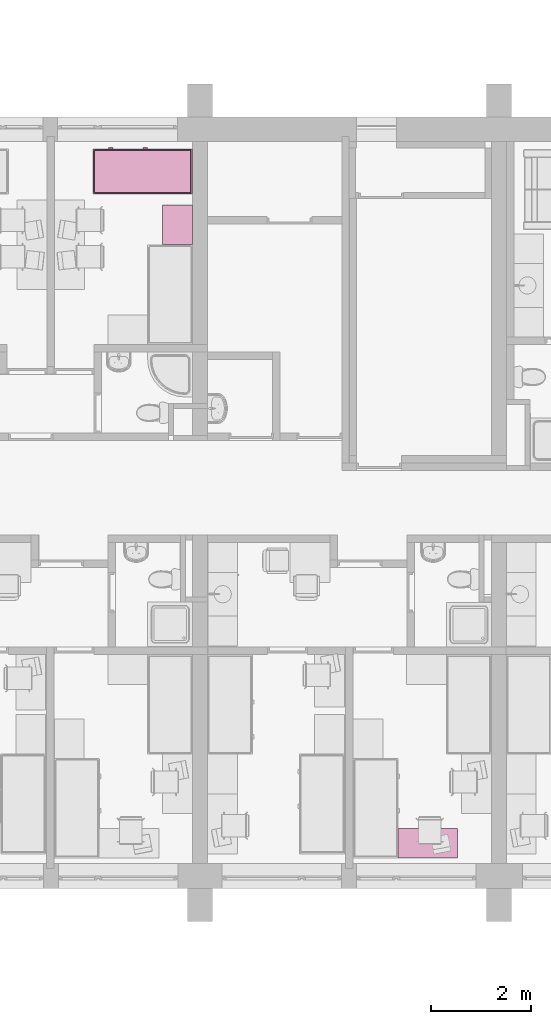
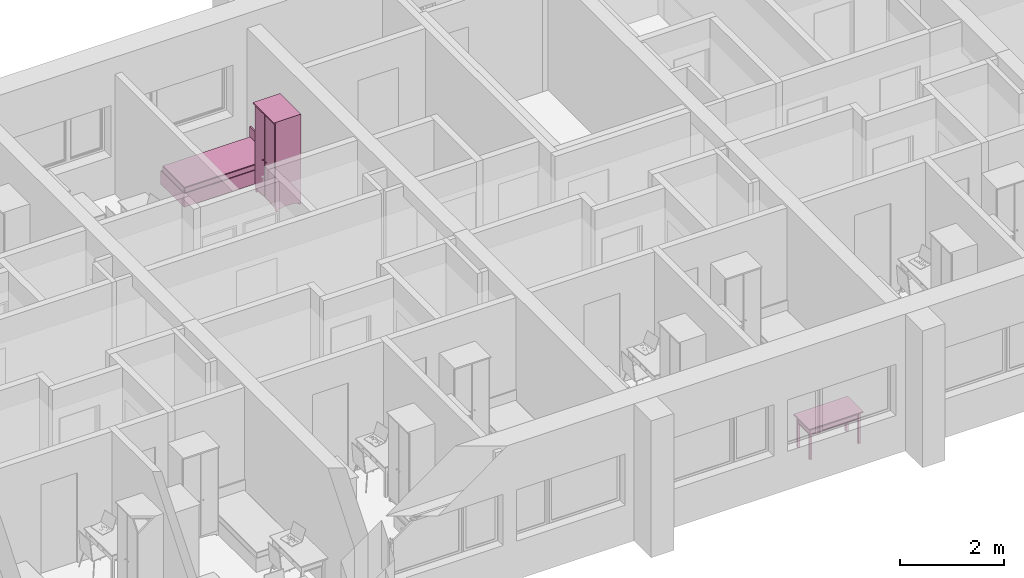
# One storey, part 99 of 165: 3 furnishings.
"""IFC2X3 building model written with IfcOpenShell, lengths in millimetres."""

import ifcopenshell
import ifcopenshell.guid

model = None  # the IFC model being written
_history = None  # IfcOwnerHistory: only IFC2X3 demands one
_inside = {}  # id of a spatial element -> (the spatial element, [elements in it])
_under = {}  # id of a project, library or spatial element -> (it, [spatial elements below it])
_declared = {}  # id of a project -> (the project, [libraries it declares])
_typed = {}  # id of a type object -> (the type object, [elements of that type])
_made_of = {}  # id of a material, layer set ... -> (it, [elements and type objects made of it])


def new_model(schema):
    """Start an empty IFC model of exactly this schema.

    Asked for "IFC4X3", IfcOpenShell would pick the latest addendum, in which some entities
    have other attributes; the version numbers below select the first issue.
    IFC2X3 requires an IfcOwnerHistory on every rooted entity: one is made here for all.
    """
    global model, _history
    if schema == "IFC4X3":
        model = ifcopenshell.file(schema_version=(4, 3, 0, 0))
    else:
        model = ifcopenshell.file(schema=schema)
    _inside.clear()
    _under.clear()
    _declared.clear()
    _typed.clear()
    _made_of.clear()
    _history = None
    if model.schema == "IFC2X3":
        org = make("IfcOrganization", Name="unknown")
        user = make(
            "IfcPersonAndOrganization",
            ThePerson=make("IfcPerson", FamilyName="unknown"),
            TheOrganization=org,
        )
        app = make(
            "IfcApplication",
            ApplicationDeveloper=org,
            Version="unknown",
            ApplicationFullName="unknown",
            ApplicationIdentifier="unknown",
        )
        _history = make(
            "IfcOwnerHistory",
            OwningUser=user,
            OwningApplication=app,
            ChangeAction="ADDED",
            CreationDate=0,
        )
    return model


def make(cls, **values):
    """One entity of the class cls with the attributes given. An attribute that is None is left unset."""
    return model.create_entity(
        cls, **{name: value for name, value in values.items() if value is not None}
    )


def entity(cls, *values):
    """Any entity or typed value of the class cls, its attributes in the order of the schema. None: left unset."""
    e = model.create_entity(cls)
    for i, value in enumerate(values):
        if value is not None:
            e[i] = value
    return e


def rooted(cls, **values):
    """An entity with a GlobalId (a new one), such as an element, a storey or a relation."""
    return make(cls, GlobalId=ifcopenshell.guid.new(), OwnerHistory=_history, **values)


def si_unit(unit_type, name, prefix=None):
    """IfcSIUnit, for example si_unit("LENGTHUNIT", "METRE", prefix="MILLI")."""
    return make("IfcSIUnit", UnitType=unit_type, Prefix=prefix, Name=name)


def converted_unit(unit_type, name, factor, base, dimensions=None, offset=None):
    """IfcConversionBasedUnit, such as the inch: factor (a typed value) times the base unit."""
    return make(
        "IfcConversionBasedUnit"
        if offset is None
        else "IfcConversionBasedUnitWithOffset",
        ConversionOffset=offset,
        Dimensions=None
        if dimensions is None
        else entity("IfcDimensionalExponents", *dimensions),
        UnitType=unit_type,
        Name=name,
        ConversionFactor=make(
            "IfcMeasureWithUnit", ValueComponent=factor, UnitComponent=base
        ),
    )


def money_unit(currency):
    """IfcMonetaryUnit."""
    return make("IfcMonetaryUnit", Currency=currency)


def assignment(units):
    """IfcUnitAssignment: the units of a project."""
    return None if units is None else make("IfcUnitAssignment", Units=units)


def point(xyz):
    """IfcCartesianPoint."""
    return None if xyz is None else make("IfcCartesianPoint", Coordinates=xyz)


def direction(xyz):
    """IfcDirection."""
    return None if xyz is None else make("IfcDirection", DirectionRatios=xyz)


def frame(location, z_axis=None, x_axis=None):
    """IfcAxis2Placement3D, a coordinate frame: its origin and axes. An axis left out is left unset."""
    return make(
        "IfcAxis2Placement3D",
        Location=point(location),
        Axis=direction(z_axis),
        RefDirection=direction(x_axis),
    )


def origin_with_axes():
    """The frame at (0, 0, 0) with the z axis (0, 0, 1) and the x axis (1, 0, 0) written out."""
    return frame((0.0, 0.0, 0.0), z_axis=(0.0, 0.0, 1.0), x_axis=(1.0, 0.0, 0.0))


def place(relative_to, where):
    """IfcLocalPlacement: puts the frame where relative to a parent placement (None: the world)."""
    return make(
        "IfcLocalPlacement", PlacementRelTo=relative_to, RelativePlacement=where
    )


def context(
    kind, dimensions, precision=None, world=None, true_north=None, identifier=None
):
    """IfcGeometricRepresentationContext, for example the 3D "Model" context."""
    return make(
        "IfcGeometricRepresentationContext",
        ContextIdentifier=identifier,
        ContextType=kind,
        CoordinateSpaceDimension=dimensions,
        Precision=precision,
        WorldCoordinateSystem=world,
        TrueNorth=true_north,
    )


def subcontext(parent, identifier, kind, view, scale=None):
    """IfcGeometricRepresentationSubContext, for example "Body" below "Model"."""
    return make(
        "IfcGeometricRepresentationSubContext",
        ContextIdentifier=identifier,
        ContextType=kind,
        ParentContext=parent,
        TargetScale=scale,
        TargetView=view,
    )


def project(units=None, contexts=None):
    """IfcProject with its units and contexts."""
    return rooted(
        "IfcProject",
        Name="project",
        RepresentationContexts=contexts,
        UnitsInContext=assignment(units),
    )


def spatial(cls, under=None, at=None, **own):
    """A site, building, storey or space (cls), placed at a placement, below another one or the project."""
    s = rooted(cls, ObjectPlacement=at, **own)
    if under is not None:
        _under.setdefault(under.id(), (under, []))[1].append(s)
    return s


def faces_of(points, faces, orient=None, outer=None):
    """IfcFace entities. A face is a list of loops; a loop is a list of indices into points, from 0.

    orient and outer hold one flag for each loop. By default every Orientation is true, the
    first loop of a face is its IfcFaceOuterBound and the others are IfcFaceBound.
    """
    made = []
    for i, loops in enumerate(faces):
        bounds = []
        for j, loop in enumerate(loops):
            is_outer = j == 0 if outer is None else outer[i][j]
            bounds.append(
                make(
                    "IfcFaceOuterBound" if is_outer else "IfcFaceBound",
                    Bound=make("IfcPolyLoop", Polygon=[points[k] for k in loop]),
                    Orientation=True if orient is None else orient[i][j],
                )
            )
        made.append(make("IfcFace", Bounds=bounds))
    return made


def faceted_brep(points, faces, orient=None, outer=None, voids=None):
    """IfcFacetedBrep: a solid bounded by flat faces; with voids (closed shells), ...WithVoids."""
    shared = [point(p) for p in points]
    hull = make("IfcClosedShell", CfsFaces=faces_of(shared, faces, orient, outer))
    if voids is None:
        return make("IfcFacetedBrep", Outer=hull)
    return make(
        "IfcFacetedBrepWithVoids",
        Outer=hull,
        Voids=[
            make(cls, CfsFaces=faces_of(shared, fs, o, b)) for cls, fs, o, b in voids
        ],
    )


def shape(context_of_items, identifier, shape_type, items):
    """IfcShapeRepresentation: the items that make up one representation, for example the "Body"."""
    return make(
        "IfcShapeRepresentation",
        ContextOfItems=context_of_items,
        RepresentationIdentifier=identifier,
        RepresentationType=shape_type,
        Items=items,
    )


def source(mapping_origin, context_of_items, identifier, shape_type, items):
    """IfcRepresentationMap: a shape defined once, which mapped items show again and again."""
    return make(
        "IfcRepresentationMap",
        MappingOrigin=mapping_origin,
        MappedRepresentation=shape(context_of_items, identifier, shape_type, items),
    )


def transform(
    local_origin,
    x_axis=None,
    y_axis=None,
    z_axis=None,
    scale=None,
    scale2=None,
    scale3=None,
    uniform=True,
):
    """IfcCartesianTransformationOperator3D, or its non-uniform kind. x_axis, y_axis, z_axis: its Axis1, 2, 3."""
    if uniform:
        return make(
            "IfcCartesianTransformationOperator3D",
            Axis1=direction(x_axis),
            Axis2=direction(y_axis),
            LocalOrigin=point(local_origin),
            Scale=scale,
            Axis3=direction(z_axis),
        )
    return make(
        "IfcCartesianTransformationOperator3DnonUniform",
        Axis1=direction(x_axis),
        Axis2=direction(y_axis),
        LocalOrigin=point(local_origin),
        Scale=scale,
        Axis3=direction(z_axis),
        Scale2=scale2,
        Scale3=scale3,
    )


def mapped(mapping_source, mapping_target):
    """IfcMappedItem: shows the shape of a source again, moved by a transform."""
    return make(
        "IfcMappedItem", MappingSource=mapping_source, MappingTarget=mapping_target
    )


def material(Name=None, Category=None):
    """IfcMaterial."""
    return make("IfcMaterial", Name=Name, Category=Category)


def material_list(materials):
    """IfcMaterialList."""
    return make("IfcMaterialList", Materials=materials)


def made_of(thing, what):
    """Note that an element or type object is made of a material, layer set ...; save() writes the relation."""
    if what is not None:
        _made_of.setdefault(what.id(), (what, []))[1].append(thing)
    return thing


def type_object(cls, material=None, **own):
    """A type object (cls), such as IfcWallType, which elements share."""
    return made_of(rooted(cls, **own), material)


def element(
    cls,
    number,
    at=None,
    inside=None,
    cuts=None,
    type_object=None,
    material=None,
    context=None,
    identifier="Body",
    shape_type=None,
    held_by="IfcProductDefinitionShape",
    body=None,
    shapes=None,
    **own,
):
    """One element of the class cls, such as IfcWall. Its Tag is "e" and its number.

    at: its placement. inside: the storey or other place that contains it. cuts: it is an
    opening in that element (IfcRelVoidsElement). A single representation is given by context,
    identifier, shape_type and body (its items); several are given by shapes. held_by: the class
    of the entity that holds the representations. save() writes the other relations.
    """
    e = rooted(cls, Tag="e%d" % number, ObjectPlacement=at, **own)
    if body is not None:
        shapes = [shape(context, identifier, shape_type, body)]
    if shapes is not None:
        e.Representation = make(held_by, Representations=shapes)
    if inside is not None:
        _inside.setdefault(inside.id(), (inside, []))[1].append(e)
    if cuts is not None:
        rooted(
            "IfcRelVoidsElement", RelatingBuildingElement=cuts, RelatedOpeningElement=e
        )
    if type_object is not None:
        _typed.setdefault(type_object.id(), (type_object, []))[1].append(e)
    return made_of(e, material)


def aggregate(whole, parts):
    """IfcRelAggregates: a whole, such as a stair, and the parts it consists of."""
    return rooted("IfcRelAggregates", RelatingObject=whole, RelatedObjects=parts)


def save(model, path):
    """Write the relations noted so far, then the file.

    IfcRelAggregates (storeys below a building ...), IfcRelContainedInSpatialStructure (elements
    in a storey), IfcRelDefinesByType, IfcRelAssociatesMaterial and IfcRelDeclares: one each for
    every whole, place, type object, material and project.
    """
    for whole, parts in _under.values():
        aggregate(whole, parts)
    for where, things in _inside.values():
        rooted(
            "IfcRelContainedInSpatialStructure",
            RelatedElements=things,
            RelatingStructure=where,
        )
    for kind, things in _typed.values():
        rooted("IfcRelDefinesByType", RelatedObjects=things, RelatingType=kind)
    for what, things in _made_of.values():
        rooted("IfcRelAssociatesMaterial", RelatedObjects=things, RelatingMaterial=what)
    for by, libraries in _declared.values():
        rooted("IfcRelDeclares", RelatingContext=by, RelatedDefinitions=libraries)
    model.write(path)


model = new_model("IFC2X3")

# Units and contexts
model_context = context("Model", 3, precision=1e-05, world=origin_with_axes(), true_north=direction((0.0, 1.0)))
body_context = subcontext(model_context, "Body", "Model", "MODEL_VIEW")
ifc_project = project(units=[si_unit("LENGTHUNIT", "METRE", prefix="MILLI"), si_unit("AREAUNIT", "SQUARE_METRE"), si_unit("VOLUMEUNIT", "CUBIC_METRE"), converted_unit("PLANEANGLEUNIT", "DEGREE", entity("IfcPlaneAngleMeasure", 0.0174532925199), si_unit("PLANEANGLEUNIT", "RADIAN"), dimensions=[0, 0, 0, 0, 0, 0, 0]), si_unit("SOLIDANGLEUNIT", "STERADIAN"), money_unit("USD"), converted_unit("TIMEUNIT", "Year", entity("IfcTimeMeasure", 31556926.0), si_unit("TIMEUNIT", "SECOND"), dimensions=[0, 0, 0, 0, 0, 0, 0]), si_unit("MASSUNIT", "GRAM"), si_unit("THERMODYNAMICTEMPERATUREUNIT", "DEGREE_CELSIUS"), si_unit("LUMINOUSINTENSITYUNIT", "LUMEN")], contexts=[model_context])

# Site, building, storey
site_placement = place(None, origin_with_axes())
site = spatial("IfcSite", under=ifc_project, at=site_placement, Name="Site", CompositionType="ELEMENT")
building_placement = place(site_placement, origin_with_axes())
building = spatial("IfcBuilding", under=site, at=building_placement, Name="Building", CompositionType="ELEMENT")
storey_placement = place(building_placement, frame((0.0, 0.0, 6300.0), z_axis=(0.0, 0.0, 1.0), x_axis=(1.0, 0.0, 0.0)))
storey = spatial("IfcBuildingStorey", under=building, at=storey_placement, Name="4KORRUS", CompositionType="ELEMENT", Elevation=6300.0)

# Furnishings
ifc_material = material(Name="Background")
ifc_material_list = material_list([ifc_material])
furnishing_element_type_1 = type_object("IfcFurnishingElementType", Name="Rectangular Table 01 19")
shared_shape_1 = source(origin_with_axes(), body_context, "Body", "Brep", [
    faceted_brep([(90.0, 40.0, 0.0), (40.0, 40.0, 0.0), (40.0, 90.0, 0.0), (90.0, 90.0, 0.0), (90.0, 40.0, 725.0), (40.0, 40.0, 725.0), (40.0, 90.0, 725.0), (90.0, 90.0, 725.0)], [[[0, 1, 2, 3]], [[1, 0, 4, 5]], [[2, 1, 5, 6]], [[3, 2, 6, 7]], [[0, 3, 7, 4]], [[5, 4, 7, 6]]]),
    faceted_brep([(1160.0, 40.0, 0.0), (1110.0, 40.0, 0.0), (1110.0, 90.0, 0.0), (1160.0, 90.0, 0.0), (1160.0, 40.0, 725.0), (1110.0, 40.0, 725.0), (1110.0, 90.0, 725.0), (1160.0, 90.0, 725.0)], [[[0, 1, 2, 3]], [[1, 0, 4, 5]], [[2, 1, 5, 6]], [[3, 2, 6, 7]], [[0, 3, 7, 4]], [[5, 4, 7, 6]]]),
    faceted_brep([(90.0, 510.0, 0.0), (40.0, 510.0, 0.0), (40.0, 560.0, 0.0), (90.0, 560.0, 0.0), (90.0, 510.0, 725.0), (40.0, 510.0, 725.0), (40.0, 560.0, 725.0), (90.0, 560.0, 725.0)], [[[0, 1, 2, 3]], [[1, 0, 4, 5]], [[2, 1, 5, 6]], [[3, 2, 6, 7]], [[0, 3, 7, 4]], [[5, 4, 7, 6]]]),
    faceted_brep([(1160.0, 510.0, 0.0), (1110.0, 510.0, 0.0), (1110.0, 560.0, 0.0), (1160.0, 560.0, 0.0), (1160.0, 510.0, 725.0), (1110.0, 510.0, 725.0), (1110.0, 560.0, 725.0), (1160.0, 560.0, 725.0)], [[[0, 1, 2, 3]], [[1, 0, 4, 5]], [[2, 1, 5, 6]], [[3, 2, 6, 7]], [[0, 3, 7, 4]], [[5, 4, 7, 6]]]),
    faceted_brep([(1160.0, 40.0, 565.0), (40.0, 40.0, 565.0), (40.0, 560.0, 565.0), (1160.0, 560.0, 565.0), (1160.0, 40.0, 585.0), (40.0, 40.0, 585.0), (40.0, 560.0, 585.0), (1160.0, 560.0, 585.0)], [[[0, 1, 2, 3]], [[1, 0, 4, 5]], [[2, 1, 5, 6]], [[3, 2, 6, 7]], [[0, 3, 7, 4]], [[5, 4, 7, 6]]]),
    faceted_brep([(1110.0, 52.5, 585.0), (90.0, 52.5, 585.0), (90.0, 77.5, 585.0), (1110.0, 77.5, 585.0), (1110.0, 52.5, 745.0), (90.0, 52.5, 745.0), (90.0, 77.5, 745.0), (1110.0, 77.5, 745.0)], [[[0, 1, 2, 3]], [[1, 0, 4, 5]], [[2, 1, 5, 6]], [[3, 2, 6, 7]], [[0, 3, 7, 4]], [[5, 4, 7, 6]]]),
    faceted_brep([(77.5, 90.0, 585.0), (52.5, 90.0, 585.0), (52.5, 510.0, 585.0), (77.5, 510.0, 585.0), (77.5, 90.0, 745.0), (52.5, 90.0, 745.0), (52.5, 510.0, 745.0), (77.5, 510.0, 745.0)], [[[0, 1, 2, 3]], [[1, 0, 4, 5]], [[2, 1, 5, 6]], [[3, 2, 6, 7]], [[0, 3, 7, 4]], [[5, 4, 7, 6]]]),
    faceted_brep([(90.0, 547.5, 585.0), (1110.0, 547.5, 585.0), (1110.0, 522.5, 585.0), (90.0, 522.5, 585.0), (90.0, 547.5, 745.0), (1110.0, 547.5, 745.0), (1110.0, 522.5, 745.0), (90.0, 522.5, 745.0)], [[[0, 1, 2, 3]], [[1, 0, 4, 5]], [[2, 1, 5, 6]], [[3, 2, 6, 7]], [[0, 3, 7, 4]], [[5, 4, 7, 6]]]),
    faceted_brep([(1122.5, 510.0, 585.0), (1147.5, 510.0, 585.0), (1147.5, 90.0, 585.0), (1122.5, 90.0, 585.0), (1122.5, 510.0, 745.0), (1147.5, 510.0, 745.0), (1147.5, 90.0, 745.0), (1122.5, 90.0, 745.0)], [[[0, 1, 2, 3]], [[1, 0, 4, 5]], [[2, 1, 5, 6]], [[3, 2, 6, 7]], [[0, 3, 7, 4]], [[5, 4, 7, 6]]]),
    faceted_brep([(597.5, 40.0, 585.0), (95.0, 40.0, 585.0), (95.0, 60.0, 585.0), (597.5, 60.0, 585.0), (597.5, 40.0, 745.0), (95.0, 40.0, 745.0), (95.0, 60.0, 745.0), (597.5, 60.0, 745.0)], [[[0, 1, 2, 3]], [[1, 0, 4, 5]], [[2, 1, 5, 6]], [[3, 2, 6, 7]], [[0, 3, 7, 4]], [[5, 4, 7, 6]]]),
    faceted_brep([(1105.0, 40.0, 585.0), (602.5, 40.0, 585.0), (602.5, 60.0, 585.0), (1105.0, 60.0, 585.0), (1105.0, 40.0, 745.0), (602.5, 40.0, 745.0), (602.5, 60.0, 745.0), (1105.0, 60.0, 745.0)], [[[0, 1, 2, 3]], [[1, 0, 4, 5]], [[2, 1, 5, 6]], [[3, 2, 6, 7]], [[0, 3, 7, 4]], [[5, 4, 7, 6]]]),
    faceted_brep([(354.91, 40.0, 660.0), (351.25, 40.0, 656.34), (346.25, 40.0, 655.0), (341.25, 40.0, 656.34), (337.59, 40.0, 660.0), (336.25, 40.0, 665.0), (337.59, 40.0, 670.0), (341.25, 40.0, 673.66), (346.25, 40.0, 675.0), (351.25, 40.0, 673.66), (354.91, 40.0, 670.0), (356.25, 40.0, 665.0), (354.91, 25.0, 660.0), (351.25, 25.0, 656.34), (346.25, 25.0, 655.0), (341.25, 25.0, 656.34), (337.59, 25.0, 660.0), (336.25, 25.0, 665.0), (337.59, 25.0, 670.0), (341.25, 25.0, 673.66), (346.25, 25.0, 675.0), (351.25, 25.0, 673.66), (354.91, 25.0, 670.0), (356.25, 25.0, 665.0)], [[[0, 1, 2, 3, 4, 5, 6, 7, 8, 9, 10, 11]], [[1, 0, 12, 13]], [[2, 1, 13, 14]], [[3, 2, 14, 15]], [[4, 3, 15, 16]], [[5, 4, 16, 17]], [[6, 5, 17, 18]], [[7, 6, 18, 19]], [[8, 7, 19, 20]], [[9, 8, 20, 21]], [[10, 9, 21, 22]], [[11, 10, 22, 23]], [[0, 11, 23, 12]], [[12, 23, 22, 21, 20, 19, 18, 17, 16, 15, 14, 13]]]),
    faceted_brep([(356.25, 12.01, 665.0), (346.25, 10.0, 665.0), (354.91, 12.01, 660.0), (354.91, 12.01, 670.0), (351.25, 12.01, 656.34), (363.571, 17.5, 665.0), (361.25, 17.5, 656.34), (351.25, 12.01, 673.66), (361.25, 17.5, 673.66), (346.25, 12.01, 655.0), (354.91, 17.5, 650.0), (366.25, 25.0, 665.0), (363.571, 25.0, 655.0), (346.25, 12.01, 675.0), (354.91, 17.5, 680.0), (363.571, 25.0, 675.0), (341.25, 12.01, 656.34), (346.25, 17.5, 647.679), (356.25, 25.0, 647.679), (346.25, 25.0, 645.0), (336.25, 25.0, 647.679), (328.929, 25.0, 655.0), (326.25, 25.0, 665.0), (328.929, 25.0, 675.0), (336.25, 25.0, 682.321), (346.25, 25.0, 685.0), (356.25, 25.0, 682.321), (341.25, 12.01, 673.66), (346.25, 17.5, 682.321), (337.59, 12.01, 660.0), (337.59, 17.5, 650.0), (331.25, 17.5, 656.34), (328.929, 17.5, 665.0), (331.25, 17.5, 673.66), (337.59, 17.5, 680.0), (337.59, 12.01, 670.0), (336.25, 12.01, 665.0)], [[[0, 1, 2]], [[3, 1, 0]], [[2, 1, 4]], [[5, 0, 2, 6]], [[7, 1, 3]], [[8, 3, 0, 5]], [[4, 1, 9]], [[6, 2, 4, 10]], [[11, 5, 6, 12]], [[13, 1, 7]], [[14, 7, 3, 8]], [[15, 8, 5, 11]], [[9, 1, 16]], [[10, 4, 9, 17]], [[12, 6, 10, 18]], [[12, 18, 19, 20, 21, 22, 23, 24, 25, 26, 15, 11]], [[27, 1, 13]], [[28, 13, 7, 14]], [[26, 14, 8, 15]], [[16, 1, 29]], [[17, 9, 16, 30]], [[18, 10, 17, 19]], [[19, 17, 30, 20]], [[20, 30, 31, 21]], [[21, 31, 32, 22]], [[22, 32, 33, 23]], [[23, 33, 34, 24]], [[24, 34, 28, 25]], [[25, 28, 14, 26]], [[35, 1, 27]], [[34, 27, 13, 28]], [[29, 1, 36]], [[30, 16, 29, 31]], [[31, 29, 36, 32]], [[32, 36, 35, 33]], [[33, 35, 27, 34]], [[36, 1, 35]]]),
    faceted_brep([(862.41, 40.0, 660.0), (858.75, 40.0, 656.34), (853.75, 40.0, 655.0), (848.75, 40.0, 656.34), (845.09, 40.0, 660.0), (843.75, 40.0, 665.0), (845.09, 40.0, 670.0), (848.75, 40.0, 673.66), (853.75, 40.0, 675.0), (858.75, 40.0, 673.66), (862.41, 40.0, 670.0), (863.75, 40.0, 665.0), (862.41, 25.0, 660.0), (858.75, 25.0, 656.34), (853.75, 25.0, 655.0), (848.75, 25.0, 656.34), (845.09, 25.0, 660.0), (843.75, 25.0, 665.0), (845.09, 25.0, 670.0), (848.75, 25.0, 673.66), (853.75, 25.0, 675.0), (858.75, 25.0, 673.66), (862.41, 25.0, 670.0), (863.75, 25.0, 665.0)], [[[0, 1, 2, 3, 4, 5, 6, 7, 8, 9, 10, 11]], [[1, 0, 12, 13]], [[2, 1, 13, 14]], [[3, 2, 14, 15]], [[4, 3, 15, 16]], [[5, 4, 16, 17]], [[6, 5, 17, 18]], [[7, 6, 18, 19]], [[8, 7, 19, 20]], [[9, 8, 20, 21]], [[10, 9, 21, 22]], [[11, 10, 22, 23]], [[0, 11, 23, 12]], [[12, 23, 22, 21, 20, 19, 18, 17, 16, 15, 14, 13]]]),
    faceted_brep([(863.75, 12.01, 665.0), (853.75, 10.0, 665.0), (862.41, 12.01, 660.0), (862.41, 12.01, 670.0), (858.75, 12.01, 656.34), (871.071, 17.5, 665.0), (868.75, 17.5, 656.34), (858.75, 12.01, 673.66), (868.75, 17.5, 673.66), (853.75, 12.01, 655.0), (862.41, 17.5, 650.0), (873.75, 25.0, 665.0), (871.071, 25.0, 655.0), (853.75, 12.01, 675.0), (862.41, 17.5, 680.0), (871.071, 25.0, 675.0), (848.75, 12.01, 656.34), (853.75, 17.5, 647.679), (863.75, 25.0, 647.679), (853.75, 25.0, 645.0), (843.75, 25.0, 647.679), (836.429, 25.0, 655.0), (833.75, 25.0, 665.0), (836.429, 25.0, 675.0), (843.75, 25.0, 682.321), (853.75, 25.0, 685.0), (863.75, 25.0, 682.321), (848.75, 12.01, 673.66), (853.75, 17.5, 682.321), (845.09, 12.01, 660.0), (845.09, 17.5, 650.0), (838.75, 17.5, 656.34), (836.429, 17.5, 665.0), (838.75, 17.5, 673.66), (845.09, 17.5, 680.0), (845.09, 12.01, 670.0), (843.75, 12.01, 665.0)], [[[0, 1, 2]], [[3, 1, 0]], [[2, 1, 4]], [[5, 0, 2, 6]], [[7, 1, 3]], [[8, 3, 0, 5]], [[4, 1, 9]], [[6, 2, 4, 10]], [[11, 5, 6, 12]], [[13, 1, 7]], [[14, 7, 3, 8]], [[15, 8, 5, 11]], [[9, 1, 16]], [[10, 4, 9, 17]], [[12, 6, 10, 18]], [[12, 18, 19, 20, 21, 22, 23, 24, 25, 26, 15, 11]], [[27, 1, 13]], [[28, 13, 7, 14]], [[26, 14, 8, 15]], [[16, 1, 29]], [[17, 9, 16, 30]], [[18, 10, 17, 19]], [[19, 17, 30, 20]], [[20, 30, 31, 21]], [[21, 31, 32, 22]], [[22, 32, 33, 23]], [[23, 33, 34, 24]], [[24, 34, 28, 25]], [[25, 28, 14, 26]], [[35, 1, 27]], [[34, 27, 13, 28]], [[29, 1, 36]], [[30, 16, 29, 31]], [[31, 29, 36, 32]], [[32, 36, 35, 33]], [[33, 35, 27, 34]], [[36, 1, 35]]]),
    faceted_brep([(1200.0, 0.0, 725.0), (0.0, 0.0, 725.0), (0.0, 600.0, 725.0), (1200.0, 600.0, 725.0), (1200.0, 0.0, 750.0), (0.0, 0.0, 750.0), (0.0, 600.0, 750.0), (1200.0, 600.0, 750.0)], [[[0, 1, 2, 3]], [[1, 0, 4, 5]], [[2, 1, 5, 6]], [[3, 2, 6, 7]], [[0, 3, 7, 4]], [[5, 4, 7, 6]]]),
])
furnishing_1_placement = place(storey_placement, frame((-18965.2967033, -18929.2398994, 0.0), z_axis=(0.0, 0.0, 1.0), x_axis=(-1.0, 0.0, 0.0)))
element("IfcFurnishingElement", 1, at=furnishing_1_placement, inside=storey, type_object=furnishing_element_type_1, material=ifc_material_list, Name="FU - 011", context=body_context, shape_type="MappedRepresentation", body=[
    mapped(shared_shape_1, transform((0.0, 0.0, 0.0))),
])
furnishing_element_type_2 = type_object("IfcFurnishingElementType", Name="Cupboard 19")
shared_shape_2 = source(origin_with_axes(), body_context, "Body", "Brep", [
    faceted_brep([(-780.0, 600.0, 120.0), (-780.0, 580.0, 120.0), (-780.0, 580.0, 2050.0), (-780.0, 600.0, 2050.0), (-20.0, 600.0, 120.0), (-20.0, 580.0, 120.0), (-20.0, 580.0, 2050.0), (-20.0, 600.0, 2050.0)], [[[0, 1, 2, 3]], [[0, 4, 5, 1]], [[1, 5, 6, 2]], [[3, 2, 6, 7]], [[4, 0, 3, 7]], [[5, 4, 7, 6]]]),
    faceted_brep([(0.0, 50.0, 100.0), (-20.0, 50.0, 100.0), (-20.0, 600.0, 100.0), (0.0, 600.0, 100.0), (0.0, 50.0, 2070.0), (-20.0, 50.0, 2070.0), (-20.0, 600.0, 2070.0), (0.0, 600.0, 2070.0)], [[[0, 1, 2, 3]], [[1, 0, 4, 5]], [[2, 1, 5, 6]], [[3, 2, 6, 7]], [[0, 3, 7, 4]], [[5, 4, 7, 6]]]),
    faceted_brep([(-780.0, 50.0, 100.0), (-800.0, 50.0, 100.0), (-800.0, 600.0, 100.0), (-780.0, 600.0, 100.0), (-780.0, 50.0, 2070.0), (-800.0, 50.0, 2070.0), (-800.0, 600.0, 2070.0), (-780.0, 600.0, 2070.0)], [[[0, 1, 2, 3]], [[1, 0, 4, 5]], [[2, 1, 5, 6]], [[3, 2, 6, 7]], [[0, 3, 7, 4]], [[5, 4, 7, 6]]]),
    faceted_brep([(-20.0, 50.0, 100.0), (-780.0, 50.0, 100.0), (-780.0, 600.0, 100.0), (-20.0, 600.0, 100.0), (-20.0, 50.0, 120.0), (-780.0, 50.0, 120.0), (-780.0, 600.0, 120.0), (-20.0, 600.0, 120.0)], [[[0, 1, 2, 3]], [[1, 0, 4, 5]], [[2, 1, 5, 6]], [[3, 2, 6, 7]], [[0, 3, 7, 4]], [[5, 4, 7, 6]]]),
    faceted_brep([(-20.0, 50.0, 2050.0), (-780.0, 50.0, 2050.0), (-780.0, 600.0, 2050.0), (-20.0, 600.0, 2050.0), (-20.0, 50.0, 2070.0), (-780.0, 50.0, 2070.0), (-780.0, 600.0, 2070.0), (-20.0, 600.0, 2070.0)], [[[0, 1, 2, 3]], [[1, 0, 4, 5]], [[2, 1, 5, 6]], [[3, 2, 6, 7]], [[0, 3, 7, 4]], [[5, 4, 7, 6]]]),
    faceted_brep([(0.0, 600.0, 2070.0), (0.0, 600.0, 2100.0), (0.0, 0.0, 2100.0), (0.0, 0.0, 2070.0), (-800.0, 600.0, 2070.0), (-800.0, 600.0, 2100.0), (-800.0, 0.0, 2100.0), (-800.0, 0.0, 2070.0)], [[[0, 1, 2, 3]], [[4, 5, 1, 0]], [[1, 5, 6, 2]], [[3, 2, 6, 7]], [[0, 3, 7, 4]], [[7, 6, 5, 4]]]),
    faceted_brep([(-760.0, 590.0, 25.0), (-640.962, 590.0, 45.8), (-640.962, 570.0, 45.8), (-760.0, 570.0, 25.0), (-760.0, 590.0, 100.0), (-40.0, 590.0, 100.0), (-40.0, 590.0, 25.0), (-159.038, 590.0, 45.8), (-279.23, 590.0, 58.32), (-400.0, 590.0, 62.5), (-520.77, 590.0, 58.32), (-520.77, 570.0, 58.32), (-400.0, 570.0, 62.5), (-279.23, 570.0, 58.32), (-159.038, 570.0, 45.8), (-40.0, 570.0, 25.0), (-40.0, 570.0, 100.0), (-760.0, 570.0, 100.0)], [[[0, 1, 2, 3]], [[0, 4, 5, 6, 7, 8, 9, 10, 1]], [[1, 10, 11, 2]], [[3, 2, 11, 12, 13, 14, 15, 16, 17]], [[4, 0, 3, 17]], [[5, 4, 17, 16]], [[6, 5, 16, 15]], [[7, 6, 15, 14]], [[8, 7, 14, 13]], [[9, 8, 13, 12]], [[10, 9, 12, 11]]]),
    faceted_brep([(-760.0, 80.0, 25.0), (-640.962, 80.0, 45.8), (-640.962, 60.0, 45.8), (-760.0, 60.0, 25.0), (-760.0, 80.0, 100.0), (-40.0, 80.0, 100.0), (-40.0, 80.0, 25.0), (-159.038, 80.0, 45.8), (-279.23, 80.0, 58.32), (-400.0, 80.0, 62.5), (-520.77, 80.0, 58.32), (-520.77, 60.0, 58.32), (-400.0, 60.0, 62.5), (-279.23, 60.0, 58.32), (-159.038, 60.0, 45.8), (-40.0, 60.0, 25.0), (-40.0, 60.0, 100.0), (-760.0, 60.0, 100.0)], [[[0, 1, 2, 3]], [[0, 4, 5, 6, 7, 8, 9, 10, 1]], [[1, 10, 11, 2]], [[3, 2, 11, 12, 13, 14, 15, 16, 17]], [[4, 0, 3, 17]], [[5, 4, 17, 16]], [[6, 5, 16, 15]], [[7, 6, 15, 14]], [[8, 7, 14, 13]], [[9, 8, 13, 12]], [[10, 9, 12, 11]]]),
    faceted_brep([(-790.0, 90.0, 25.0), (-790.0, 141.266, 38.072), (-770.0, 141.266, 38.072), (-770.0, 90.0, 25.0), (-790.0, 90.0, 100.0), (-790.0, 560.0, 100.0), (-790.0, 560.0, 25.0), (-790.0, 508.734, 38.072), (-790.0, 456.752, 47.92), (-790.0, 404.257, 54.508), (-790.0, 351.453, 57.808), (-790.0, 298.547, 57.808), (-790.0, 245.743, 54.508), (-790.0, 193.248, 47.92), (-770.0, 193.248, 47.92), (-770.0, 245.743, 54.508), (-770.0, 298.547, 57.808), (-770.0, 351.453, 57.808), (-770.0, 404.257, 54.508), (-770.0, 456.752, 47.92), (-770.0, 508.734, 38.072), (-770.0, 560.0, 25.0), (-770.0, 560.0, 100.0), (-770.0, 90.0, 100.0)], [[[0, 1, 2, 3]], [[0, 4, 5, 6, 7, 8, 9, 10, 11, 12, 13, 1]], [[1, 13, 14, 2]], [[3, 2, 14, 15, 16, 17, 18, 19, 20, 21, 22, 23]], [[4, 0, 3, 23]], [[5, 4, 23, 22]], [[6, 5, 22, 21]], [[7, 6, 21, 20]], [[8, 7, 20, 19]], [[9, 8, 19, 18]], [[10, 9, 18, 17]], [[11, 10, 17, 16]], [[12, 11, 16, 15]], [[13, 12, 15, 14]]]),
    faceted_brep([(-30.0, 90.0, 25.0), (-30.0, 141.266, 38.072), (-10.0, 141.266, 38.072), (-10.0, 90.0, 25.0), (-30.0, 90.0, 100.0), (-30.0, 560.0, 100.0), (-30.0, 560.0, 25.0), (-30.0, 508.734, 38.072), (-30.0, 456.752, 47.92), (-30.0, 404.257, 54.508), (-30.0, 351.453, 57.808), (-30.0, 298.547, 57.808), (-30.0, 245.743, 54.508), (-30.0, 193.248, 47.92), (-10.0, 193.248, 47.92), (-10.0, 245.743, 54.508), (-10.0, 298.547, 57.808), (-10.0, 351.453, 57.808), (-10.0, 404.257, 54.508), (-10.0, 456.752, 47.92), (-10.0, 508.734, 38.072), (-10.0, 560.0, 25.0), (-10.0, 560.0, 100.0), (-10.0, 90.0, 100.0)], [[[0, 1, 2, 3]], [[0, 4, 5, 6, 7, 8, 9, 10, 11, 12, 13, 1]], [[1, 13, 14, 2]], [[3, 2, 14, 15, 16, 17, 18, 19, 20, 21, 22, 23]], [[4, 0, 3, 23]], [[5, 4, 23, 22]], [[6, 5, 22, 21]], [[7, 6, 21, 20]], [[8, 7, 20, 19]], [[9, 8, 19, 18]], [[10, 9, 18, 17]], [[11, 10, 17, 16]], [[12, 11, 16, 15]], [[13, 12, 15, 14]]]),
    faceted_brep([(-760.0, 560.0, 0.0), (-760.0, 600.0, 0.0), (-760.0, 600.0, 100.0), (-760.0, 560.0, 100.0), (-800.0, 560.0, 0.0), (-800.0, 600.0, 0.0), (-800.0, 600.0, 100.0), (-800.0, 560.0, 100.0)], [[[0, 1, 2, 3]], [[0, 4, 5, 1]], [[1, 5, 6, 2]], [[3, 2, 6, 7]], [[4, 0, 3, 7]], [[5, 4, 7, 6]]]),
    faceted_brep([(0.0, 560.0, 0.0), (0.0, 600.0, 0.0), (0.0, 600.0, 100.0), (0.0, 560.0, 100.0), (-40.0, 560.0, 0.0), (-40.0, 600.0, 0.0), (-40.0, 600.0, 100.0), (-40.0, 560.0, 100.0)], [[[0, 1, 2, 3]], [[0, 4, 5, 1]], [[1, 5, 6, 2]], [[3, 2, 6, 7]], [[4, 0, 3, 7]], [[5, 4, 7, 6]]]),
    faceted_brep([(-760.0, 50.0, 0.0), (-760.0, 90.0, 0.0), (-760.0, 90.0, 100.0), (-760.0, 50.0, 100.0), (-800.0, 50.0, 0.0), (-800.0, 90.0, 0.0), (-800.0, 90.0, 100.0), (-800.0, 50.0, 100.0)], [[[0, 1, 2, 3]], [[0, 4, 5, 1]], [[1, 5, 6, 2]], [[3, 2, 6, 7]], [[4, 0, 3, 7]], [[5, 4, 7, 6]]]),
    faceted_brep([(0.0, 50.0, 0.0), (0.0, 90.0, 0.0), (0.0, 90.0, 100.0), (0.0, 50.0, 100.0), (-40.0, 50.0, 0.0), (-40.0, 90.0, 0.0), (-40.0, 90.0, 100.0), (-40.0, 50.0, 100.0)], [[[0, 1, 2, 3]], [[0, 4, 5, 1]], [[1, 5, 6, 2]], [[3, 2, 6, 7]], [[4, 0, 3, 7]], [[5, 4, 7, 6]]]),
    faceted_brep([(-780.0, 580.0, 587.5), (-780.0, 50.0, 587.5), (-780.0, 50.0, 607.5), (-780.0, 580.0, 607.5), (-20.0, 580.0, 587.5), (-20.0, 50.0, 587.5), (-20.0, 50.0, 607.5), (-20.0, 580.0, 607.5)], [[[0, 1, 2, 3]], [[0, 4, 5, 1]], [[1, 5, 6, 2]], [[3, 2, 6, 7]], [[4, 0, 3, 7]], [[5, 4, 7, 6]]]),
    faceted_brep([(-780.0, 580.0, 1075.0), (-780.0, 50.0, 1075.0), (-780.0, 50.0, 1095.0), (-780.0, 580.0, 1095.0), (-20.0, 580.0, 1075.0), (-20.0, 50.0, 1075.0), (-20.0, 50.0, 1095.0), (-20.0, 580.0, 1095.0)], [[[0, 1, 2, 3]], [[0, 4, 5, 1]], [[1, 5, 6, 2]], [[3, 2, 6, 7]], [[4, 0, 3, 7]], [[5, 4, 7, 6]]]),
    faceted_brep([(-780.0, 580.0, 1562.5), (-780.0, 50.0, 1562.5), (-780.0, 50.0, 1582.5), (-780.0, 580.0, 1582.5), (-20.0, 580.0, 1562.5), (-20.0, 50.0, 1562.5), (-20.0, 50.0, 1582.5), (-20.0, 580.0, 1582.5)], [[[0, 1, 2, 3]], [[0, 4, 5, 1]], [[1, 5, 6, 2]], [[3, 2, 6, 7]], [[4, 0, 3, 7]], [[5, 4, 7, 6]]]),
    faceted_brep([(-789.5, 50.0, 110.5), (-789.5, 50.0, 2059.5), (-400.5, 50.0, 2059.5), (-400.5, 50.0, 110.5), (-789.5, 40.0, 110.5), (-789.5, 40.0, 2059.5), (-400.5, 40.0, 2059.5), (-400.5, 40.0, 110.5), (-779.5, 30.0, 120.5), (-779.5, 30.0, 2049.5), (-410.5, 30.0, 2049.5), (-410.5, 30.0, 120.5)], [[[0, 1, 2, 3]], [[1, 0, 4, 5]], [[2, 1, 5, 6]], [[3, 2, 6, 7]], [[0, 3, 7, 4]], [[5, 4, 8, 9]], [[6, 5, 9, 10]], [[7, 6, 10, 11]], [[4, 7, 11, 8]], [[10, 9, 8, 11]]]),
    faceted_brep([(-399.5, 50.0, 110.5), (-399.5, 50.0, 2059.5), (-10.5, 50.0, 2059.5), (-10.5, 50.0, 110.5), (-399.5, 40.0, 110.5), (-399.5, 40.0, 2059.5), (-10.5, 40.0, 2059.5), (-10.5, 40.0, 110.5), (-389.5, 30.0, 120.5), (-389.5, 30.0, 2049.5), (-20.5, 30.0, 2049.5), (-20.5, 30.0, 120.5)], [[[0, 1, 2, 3]], [[1, 0, 4, 5]], [[2, 1, 5, 6]], [[3, 2, 6, 7]], [[0, 3, 7, 4]], [[5, 4, 8, 9]], [[6, 5, 9, 10]], [[7, 6, 10, 11]], [[4, 7, 11, 8]], [[10, 9, 8, 11]]]),
    faceted_brep([(-339.608, 30.0, 954.0), (-344.0, 30.0, 949.608), (-350.0, 30.0, 948.0), (-356.0, 30.0, 949.608), (-360.392, 30.0, 954.0), (-362.0, 30.0, 960.0), (-360.392, 30.0, 966.0), (-356.0, 30.0, 970.392), (-350.0, 30.0, 972.0), (-344.0, 30.0, 970.392), (-339.608, 30.0, 966.0), (-338.0, 30.0, 960.0), (-339.608, 5.0, 954.0), (-344.0, 5.0, 949.608), (-350.0, 5.0, 948.0), (-356.0, 5.0, 949.608), (-360.392, 5.0, 954.0), (-362.0, 5.0, 960.0), (-360.392, 5.0, 966.0), (-356.0, 5.0, 970.392), (-350.0, 5.0, 972.0), (-344.0, 5.0, 970.392), (-339.608, 5.0, 966.0), (-338.0, 5.0, 960.0)], [[[0, 1, 2, 3, 4, 5, 6, 7, 8, 9, 10, 11]], [[1, 0, 12, 13]], [[2, 1, 13, 14]], [[3, 2, 14, 15]], [[4, 3, 15, 16]], [[5, 4, 16, 17]], [[6, 5, 17, 18]], [[7, 6, 18, 19]], [[8, 7, 19, 20]], [[9, 8, 20, 21]], [[10, 9, 21, 22]], [[11, 10, 22, 23]], [[0, 11, 23, 12]], [[12, 23, 22, 21, 20, 19, 18, 17, 16, 15, 14, 13]]]),
    faceted_brep([(-460.392, 30.0, 954.0), (-462.0, 30.0, 960.0), (-460.392, 30.0, 966.0), (-456.0, 30.0, 970.392), (-450.0, 30.0, 972.0), (-444.0, 30.0, 970.392), (-439.608, 30.0, 966.0), (-438.0, 30.0, 960.0), (-439.608, 30.0, 954.0), (-444.0, 30.0, 949.608), (-450.0, 30.0, 948.0), (-456.0, 30.0, 949.608), (-460.392, 5.0, 954.0), (-462.0, 5.0, 960.0), (-460.392, 5.0, 966.0), (-456.0, 5.0, 970.392), (-450.0, 5.0, 972.0), (-444.0, 5.0, 970.392), (-439.608, 5.0, 966.0), (-438.0, 5.0, 960.0), (-439.608, 5.0, 954.0), (-444.0, 5.0, 949.608), (-450.0, 5.0, 948.0), (-456.0, 5.0, 949.608)], [[[0, 1, 2, 3, 4, 5, 6, 7, 8, 9, 10, 11]], [[0, 12, 13, 1]], [[1, 13, 14, 2]], [[2, 14, 15, 3]], [[3, 15, 16, 4]], [[4, 16, 17, 5]], [[5, 17, 18, 6]], [[6, 18, 19, 7]], [[7, 19, 20, 8]], [[8, 20, 21, 9]], [[9, 21, 22, 10]], [[10, 22, 23, 11]], [[11, 23, 12, 0]], [[12, 23, 22, 21, 20, 19, 18, 17, 16, 15, 14, 13]]]),
])
furnishing_2_placement = place(storey_placement, frame((-24890.2967033, -7207.41563755, 0.0), z_axis=(0.0, 0.0, 1.0), x_axis=(0.0, -1.0, 0.0)))
element("IfcFurnishingElement", 2, at=furnishing_2_placement, inside=storey, type_object=furnishing_element_type_2, material=ifc_material_list, Name="FU - 014", context=body_context, shape_type="MappedRepresentation", body=[
    mapped(shared_shape_2, transform((0.0, 0.0, 0.0))),
])
furnishing_element_type_3 = type_object("IfcFurnishingElementType", Name="Bed 19")
shared_shape_3 = source(origin_with_axes(), body_context, "Body", "Brep", [
    faceted_brep([(-900.0, 1970.0, 0.0), (-900.0, 2000.0, 0.0), (0.0, 2000.0, 0.0), (0.0, 1970.0, 0.0), (-900.0, 1970.0, 660.0), (-900.0, 2000.0, 660.0), (0.0, 2000.0, 660.0), (0.0, 1970.0, 660.0)], [[[0, 1, 2, 3]], [[0, 4, 5, 1]], [[1, 5, 6, 2]], [[2, 6, 7, 3]], [[3, 7, 4, 0]], [[7, 6, 5, 4]]]),
    faceted_brep([(-900.0, 0.0, 0.0), (-900.0, 1970.0, 0.0), (0.0, 1970.0, 0.0), (0.0, 0.0, 0.0), (-900.0, 0.0, 320.0), (-900.0, 1970.0, 320.0), (0.0, 1970.0, 320.0), (0.0, 0.0, 320.0)], [[[0, 1, 2, 3]], [[0, 4, 5, 1]], [[1, 5, 6, 2]], [[2, 6, 7, 3]], [[3, 7, 4, 0]], [[7, 6, 5, 4]]]),
    faceted_brep([(-905.0, 10.0, 30.0), (-905.0, 695.0, 30.0), (-900.0, 695.0, 30.0), (-900.0, 10.0, 30.0), (-905.0, 10.0, 290.0), (-905.0, 695.0, 290.0), (-900.0, 695.0, 290.0), (-900.0, 10.0, 290.0)], [[[0, 1, 2, 3]], [[0, 4, 5, 1]], [[1, 5, 6, 2]], [[2, 6, 7, 3]], [[3, 7, 4, 0]], [[7, 6, 5, 4]]]),
    faceted_brep([(-935.0, 307.5, 150.0), (-935.0, 397.5, 150.0), (-905.0, 397.5, 150.0), (-905.0, 307.5, 150.0), (-935.0, 307.5, 170.0), (-935.0, 397.5, 170.0), (-905.0, 397.5, 170.0), (-905.0, 307.5, 170.0)], [[[0, 1, 2, 3]], [[0, 4, 5, 1]], [[1, 5, 6, 2]], [[2, 6, 7, 3]], [[3, 7, 4, 0]], [[7, 6, 5, 4]]]),
    faceted_brep([(-905.0, 705.0, 30.0), (-905.0, 1390.0, 30.0), (-900.0, 1390.0, 30.0), (-900.0, 705.0, 30.0), (-905.0, 705.0, 290.0), (-905.0, 1390.0, 290.0), (-900.0, 1390.0, 290.0), (-900.0, 705.0, 290.0)], [[[0, 1, 2, 3]], [[0, 4, 5, 1]], [[1, 5, 6, 2]], [[2, 6, 7, 3]], [[3, 7, 4, 0]], [[7, 6, 5, 4]]]),
    faceted_brep([(-935.0, 1002.5, 150.0), (-935.0, 1092.5, 150.0), (-905.0, 1092.5, 150.0), (-905.0, 1002.5, 150.0), (-935.0, 1002.5, 170.0), (-935.0, 1092.5, 170.0), (-905.0, 1092.5, 170.0), (-905.0, 1002.5, 170.0)], [[[0, 1, 2, 3]], [[0, 4, 5, 1]], [[1, 5, 6, 2]], [[2, 6, 7, 3]], [[3, 7, 4, 0]], [[7, 6, 5, 4]]]),
    faceted_brep([(-20.0, 40.0, 350.0), (-21.522, 32.346, 350.0), (-25.858, 25.858, 350.0), (-32.346, 21.522, 350.0), (-40.0, 20.0, 350.0), (-860.0, 20.0, 350.0), (-867.654, 21.522, 350.0), (-874.142, 25.858, 350.0), (-878.478, 32.346, 350.0), (-880.0, 40.0, 350.0), (-880.0, 1950.0, 350.0), (-878.478, 1957.654, 350.0), (-874.142, 1964.142, 350.0), (-867.654, 1968.478, 350.0), (-860.0, 1970.0, 350.0), (-40.0, 1970.0, 350.0), (-32.346, 1968.478, 350.0), (-25.858, 1964.142, 350.0), (-21.522, 1957.654, 350.0), (-20.0, 1950.0, 350.0), (-20.0, 40.0, 420.0), (-21.522, 32.346, 420.0), (-25.858, 25.858, 420.0), (-32.346, 21.522, 420.0), (-40.0, 20.0, 420.0), (-860.0, 20.0, 420.0), (-867.654, 21.522, 420.0), (-874.142, 25.858, 420.0), (-878.478, 32.346, 420.0), (-880.0, 40.0, 420.0), (-880.0, 1950.0, 420.0), (-878.478, 1957.654, 420.0), (-874.142, 1964.142, 420.0), (-867.654, 1968.478, 420.0), (-860.0, 1970.0, 420.0), (-40.0, 1970.0, 420.0), (-32.346, 1968.478, 420.0), (-25.858, 1964.142, 420.0), (-21.522, 1957.654, 420.0), (-20.0, 1950.0, 420.0), (-21.522, 40.15, 427.654), (-22.956, 32.94, 427.654), (-26.955, 26.955, 427.654), (-32.94, 22.956, 427.654), (-40.15, 21.522, 427.654), (-859.85, 21.522, 427.654), (-867.06, 22.956, 427.654), (-873.045, 26.955, 427.654), (-877.044, 32.94, 427.654), (-878.478, 40.15, 427.654), (-878.478, 1949.85, 427.654), (-877.044, 1957.06, 427.654), (-873.045, 1963.045, 427.654), (-867.06, 1967.044, 427.654), (-859.85, 1968.478, 427.654), (-40.15, 1968.478, 427.654), (-32.94, 1967.044, 427.654), (-26.955, 1963.045, 427.654), (-22.956, 1957.06, 427.654), (-21.522, 1949.85, 427.654), (-32.346, 41.216, 438.478), (-33.152, 37.164, 438.478), (-34.759, 34.759, 438.478), (-37.164, 33.152, 438.478), (-41.216, 32.346, 438.478), (-858.784, 32.346, 438.478), (-862.836, 33.152, 438.478), (-865.241, 34.759, 438.478), (-866.848, 37.164, 438.478), (-867.654, 41.216, 438.478), (-867.654, 1948.784, 438.478), (-866.848, 1952.836, 438.478), (-865.241, 1955.241, 438.478), (-862.836, 1956.848, 438.478), (-858.784, 1957.654, 438.478), (-41.216, 1957.654, 438.478), (-37.164, 1956.848, 438.478), (-34.759, 1955.241, 438.478), (-33.152, 1952.836, 438.478), (-32.346, 1948.784, 438.478), (-40.0, 41.97, 440.0), (-40.327, 40.327, 440.0), (-40.0, 40.0, 439.924), (-41.97, 40.0, 440.0), (-858.03, 40.0, 440.0), (-859.673, 40.327, 440.0), (-860.0, 40.0, 439.924), (-860.0, 41.97, 440.0), (-860.0, 1948.03, 440.0), (-859.673, 1949.673, 440.0), (-860.0, 1950.0, 439.924), (-858.03, 1950.0, 440.0), (-41.97, 1950.0, 440.0), (-40.327, 1949.673, 440.0), (-40.0, 1950.0, 439.924), (-40.0, 1948.03, 440.0)], [[[0, 1, 2, 3, 4, 5, 6, 7, 8, 9, 10, 11, 12, 13, 14, 15, 16, 17, 18, 19]], [[0, 20, 21, 1]], [[1, 21, 22, 2]], [[2, 22, 23, 3]], [[3, 23, 24, 4]], [[4, 24, 25, 5]], [[5, 25, 26, 6]], [[6, 26, 27, 7]], [[7, 27, 28, 8]], [[8, 28, 29, 9]], [[9, 29, 30, 10]], [[10, 30, 31, 11]], [[11, 31, 32, 12]], [[12, 32, 33, 13]], [[13, 33, 34, 14]], [[14, 34, 35, 15]], [[15, 35, 36, 16]], [[16, 36, 37, 17]], [[17, 37, 38, 18]], [[18, 38, 39, 19]], [[19, 39, 20, 0]], [[20, 40, 41, 21]], [[21, 41, 42, 22]], [[22, 42, 43, 23]], [[23, 43, 44, 24]], [[24, 44, 45, 25]], [[25, 45, 46, 26]], [[26, 46, 47, 27]], [[27, 47, 48, 28]], [[28, 48, 49, 29]], [[29, 49, 50, 30]], [[30, 50, 51, 31]], [[31, 51, 52, 32]], [[32, 52, 53, 33]], [[33, 53, 54, 34]], [[34, 54, 55, 35]], [[35, 55, 56, 36]], [[36, 56, 57, 37]], [[37, 57, 58, 38]], [[38, 58, 59, 39]], [[39, 59, 40, 20]], [[40, 60, 61, 41]], [[41, 61, 62, 42]], [[42, 62, 63, 43]], [[43, 63, 64, 44]], [[44, 64, 65, 45]], [[45, 65, 66, 46]], [[46, 66, 67, 47]], [[47, 67, 68, 48]], [[48, 68, 69, 49]], [[49, 69, 70, 50]], [[50, 70, 71, 51]], [[51, 71, 72, 52]], [[52, 72, 73, 53]], [[53, 73, 74, 54]], [[54, 74, 75, 55]], [[55, 75, 76, 56]], [[56, 76, 77, 57]], [[57, 77, 78, 58]], [[58, 78, 79, 59]], [[59, 79, 60, 40]], [[60, 80, 81, 82, 61]], [[61, 82, 62]], [[62, 82, 63]], [[63, 82, 81, 83, 64]], [[64, 83, 84, 65]], [[65, 84, 85, 86, 66]], [[66, 86, 67]], [[67, 86, 68]], [[68, 86, 85, 87, 69]], [[69, 87, 88, 70]], [[70, 88, 89, 90, 71]], [[71, 90, 72]], [[72, 90, 73]], [[73, 90, 89, 91, 74]], [[74, 91, 92, 75]], [[75, 92, 93, 94, 76]], [[76, 94, 77]], [[77, 94, 78]], [[78, 94, 93, 95, 79]], [[79, 95, 80, 60]], [[95, 93, 92, 91, 89, 88, 87, 85, 84, 83, 81, 80]]]),
    faceted_brep([(-20.0, 40.0, 350.0), (-20.0, 1950.0, 350.0), (-21.522, 1957.654, 350.0), (-25.858, 1964.142, 350.0), (-32.346, 1968.478, 350.0), (-40.0, 1970.0, 350.0), (-860.0, 1970.0, 350.0), (-867.654, 1968.478, 350.0), (-874.142, 1964.142, 350.0), (-878.478, 1957.654, 350.0), (-880.0, 1950.0, 350.0), (-880.0, 40.0, 350.0), (-878.478, 32.346, 350.0), (-874.142, 25.858, 350.0), (-867.654, 21.522, 350.0), (-860.0, 20.0, 350.0), (-40.0, 20.0, 350.0), (-32.346, 21.522, 350.0), (-25.858, 25.858, 350.0), (-21.522, 32.346, 350.0), (-20.0, 40.0, 320.0), (-20.0, 1950.0, 320.0), (-21.522, 1957.654, 320.0), (-25.858, 1964.142, 320.0), (-32.346, 1968.478, 320.0), (-40.0, 1970.0, 320.0), (-860.0, 1970.0, 320.0), (-867.654, 1968.478, 320.0), (-874.142, 1964.142, 320.0), (-878.478, 1957.654, 320.0), (-880.0, 1950.0, 320.0), (-880.0, 40.0, 320.0), (-878.478, 32.346, 320.0), (-874.142, 25.858, 320.0), (-867.654, 21.522, 320.0), (-860.0, 20.0, 320.0), (-40.0, 20.0, 320.0), (-32.346, 21.522, 320.0), (-25.858, 25.858, 320.0), (-21.522, 32.346, 320.0)], [[[0, 1, 2, 3, 4, 5, 6, 7, 8, 9, 10, 11, 12, 13, 14, 15, 16, 17, 18, 19]], [[1, 0, 20, 21]], [[2, 1, 21, 22]], [[3, 2, 22, 23]], [[4, 3, 23, 24]], [[5, 4, 24, 25]], [[6, 5, 25, 26]], [[7, 6, 26, 27]], [[8, 7, 27, 28]], [[9, 8, 28, 29]], [[10, 9, 29, 30]], [[11, 10, 30, 31]], [[12, 11, 31, 32]], [[13, 12, 32, 33]], [[14, 13, 33, 34]], [[15, 14, 34, 35]], [[16, 15, 35, 36]], [[17, 16, 36, 37]], [[18, 17, 37, 38]], [[19, 18, 38, 39]], [[0, 19, 39, 20]], [[20, 39, 38, 37, 36, 35, 34, 33, 32, 31, 30, 29, 28, 27, 26, 25, 24, 23, 22, 21]]]),
])
furnishing_3_placement = place(storey_placement, frame((-26290.2967033, -6189.6041088, 0.0), z_axis=(0.0, 0.0, 1.0), x_axis=(0.0, -1.0, 0.0)))
element("IfcFurnishingElement", 3, at=furnishing_3_placement, inside=storey, type_object=furnishing_element_type_3, material=ifc_material_list, Name="FU - 013", context=body_context, shape_type="MappedRepresentation", body=[
    mapped(shared_shape_3, transform((0.0, 0.0, 0.0))),
])

save(model, "model.ifc")
